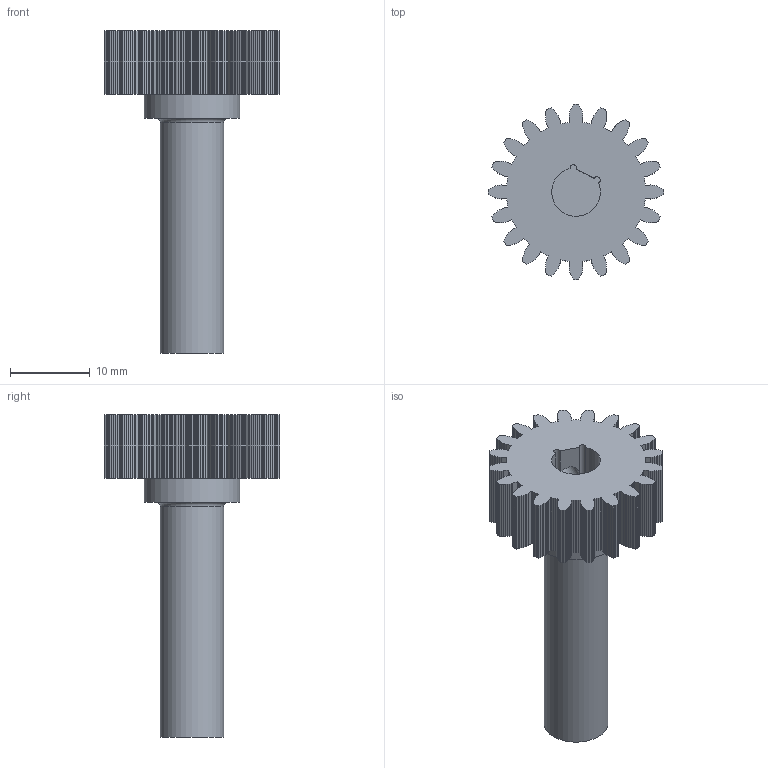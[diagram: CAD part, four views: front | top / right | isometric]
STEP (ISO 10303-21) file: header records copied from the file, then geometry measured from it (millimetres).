
FILE_DESCRIPTION(('Open CASCADE Model'),'2;1');
FILE_NAME('Open CASCADE Shape Model','2026-10-18T02:27:58',('Author'),( 'Open CASCADE'),'Open CASCADE STEP processor 7.9','Open CASCADE 7.9' ,'Unknown');
FILE_SCHEMA(('AUTOMOTIVE_DESIGN { 1 0 10303 214 1 1 1 1 }'));
Length unit declared in the file: millimetre
Products named in the file (1): Open CASCADE STEP translator 7.9 16
Bounding box: 22 x 22 x 40.5 mm (x, y, z)
Volume: 3999.3 mm3; surface area: 2723.7 mm2
Topology: 1 solids, 1 shells, 532 faces, 1583 edges, 1055 vertices
Faces by surface type: plane 525, cylinder 6, torus 1
Full cylindrical faces by diameter (mm): 2.5 x1, 7.985 x1, 12 x1
Entity records: 38245 total; most frequent: CARTESIAN_POINT 6575, DIRECTION 5823, LINE 4604, VECTOR 4604, ORIENTED_EDGE 3166, PCURVE 3166, DEFINITIONAL_REPRESENTATION 3166, EDGE_CURVE 1583
